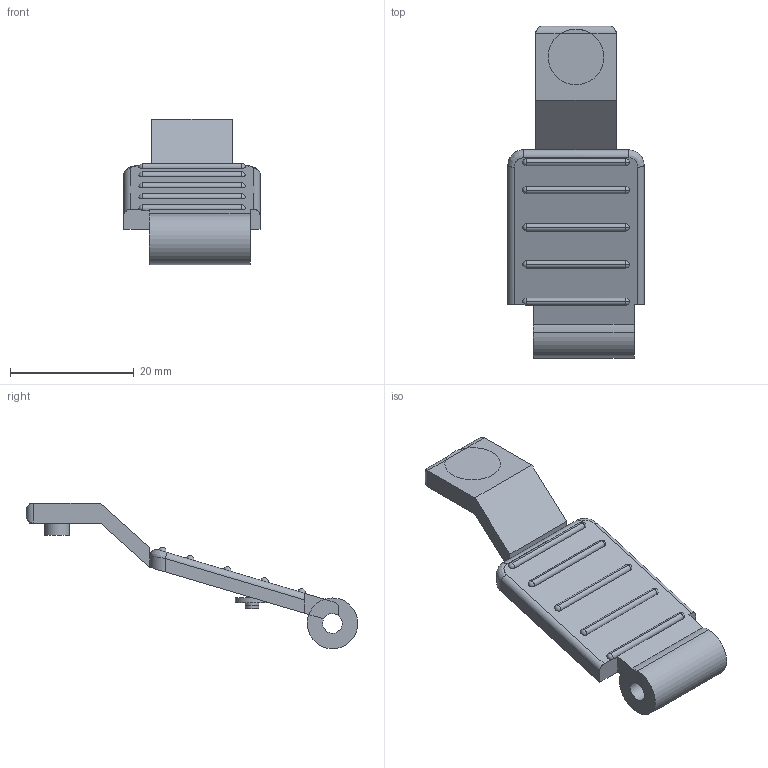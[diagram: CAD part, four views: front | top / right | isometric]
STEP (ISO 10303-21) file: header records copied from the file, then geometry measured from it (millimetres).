
FILE_DESCRIPTION(('FreeCAD Model'),'2;1');
FILE_NAME('Open CASCADE Shape Model','2026-10-18T19:16:07',('FreeCAD'),( 'FreeCAD'),'Open CASCADE STEP processor 7.9','FreeCAD','Unknown');
FILE_SCHEMA(('AUTOMOTIVE_DESIGN { 1 0 10303 214 1 1 1 1 }'));
Length unit declared in the file: millimetre
Products named in the file (1): Open CASCADE STEP translator 7.9 6
Bounding box: 22 x 53.6 x 23.5 mm (x, y, z)
Volume: 3460.5 mm3; surface area: 2894.9 mm2
Topology: 1 solids, 1 shells, 78 faces, 197 edges, 112 vertices
Faces by surface type: plane 32, cylinder 29, sphere 15, bspline 2
Full cylindrical faces by diameter (mm): 2.2 x2, 3.2 x1, 4 x1
Entity records: 2472 total; most frequent: CARTESIAN_POINT 638, DIRECTION 410, ORIENTED_EDGE 364, EDGE_CURVE 182, AXIS2_PLACEMENT_3D 160, VERTEX_POINT 112, LINE 90, VECTOR 90
